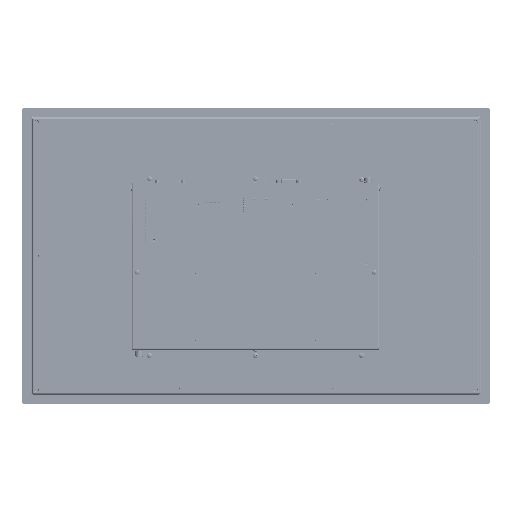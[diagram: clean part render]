
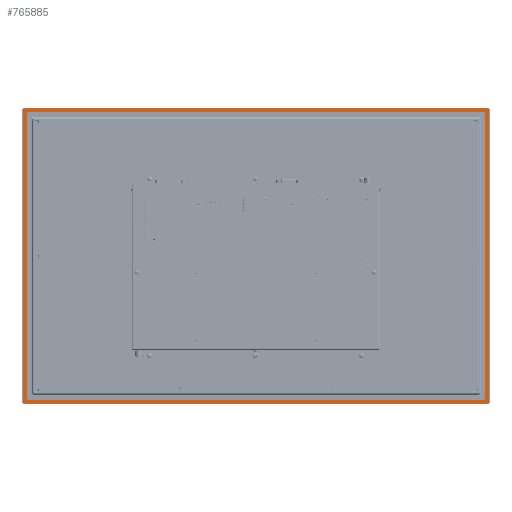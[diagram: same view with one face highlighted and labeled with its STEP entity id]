
A CAD part, front view. The second image highlights one B-rep face of the part: STEP entity #765885.
In plain terms, the highlighted planar face has unit normal (0, -1, 0).
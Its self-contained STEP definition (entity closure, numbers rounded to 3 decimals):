
#7598 = CARTESIAN_POINT ( 'NONE',  ( 282.25, 0.5, 180. ) ) ;
#8622 = CARTESIAN_POINT ( 'NONE',  ( -288.25, 0.5, 184. ) ) ;
#10636 = CARTESIAN_POINT ( 'NONE',  ( 288.25, 0.5, 184. ) ) ;
#11853 = CARTESIAN_POINT ( 'NONE',  ( 286.25, 0.5, -179. ) ) ;
#27759 = CARTESIAN_POINT ( 'NONE',  ( -288.25, 0.5, -177. ) ) ;
#32419 = ORIENTED_EDGE ( 'NONE', *, *, #439738, .F. ) ;
#52632 = CIRCLE ( 'NONE', #387387, 1. ) ;
#54996 = DIRECTION ( 'NONE',  ( 0., 0., -1. ) ) ;
#71326 = FACE_BOUND ( 'NONE', #484573, .T. ) ;
#73908 = VECTOR ( 'NONE', #370084, 1000. ) ;
#76808 = AXIS2_PLACEMENT_3D ( 'NONE', #274010, #711557, #329782 ) ;
#78430 = AXIS2_PLACEMENT_3D ( 'NONE', #334466, #406718, #206369 ) ;
#80109 = EDGE_CURVE ( 'NONE', #336897, #710546, #448814, .T. ) ;
#91743 = CARTESIAN_POINT ( 'NONE',  ( 286.25, 0.5, 186. ) ) ;
#104971 = DIRECTION ( 'NONE',  ( 1., 0., 0. ) ) ;
#109517 = EDGE_CURVE ( 'NONE', #717245, #321237, #810033, .T. ) ;
#111529 = CIRCLE ( 'NONE', #346694, 2. ) ;
#115895 = CARTESIAN_POINT ( 'NONE',  ( -283.25, 0.5, -173. ) ) ;
#116069 = CIRCLE ( 'NONE', #78430, 2. ) ;
#127165 = CARTESIAN_POINT ( 'NONE',  ( -286.25, 0.5, -179. ) ) ;
#133746 = AXIS2_PLACEMENT_3D ( 'NONE', #7598, #707058, #762969 ) ;
#150272 = ORIENTED_EDGE ( 'NONE', *, *, #305863, .F. ) ;
#151353 = FACE_OUTER_BOUND ( 'NONE', #289705, .T. ) ;
#159815 = EDGE_CURVE ( 'NONE', #660892, #651074, #260043, .T. ) ;
#160306 = VERTEX_POINT ( 'NONE', #521821 ) ;
#161054 = ORIENTED_EDGE ( 'NONE', *, *, #109517, .F. ) ;
#164275 = CARTESIAN_POINT ( 'NONE',  ( 286.25, 0.5, 184. ) ) ;
#177852 = DIRECTION ( 'NONE',  ( 0., -1., 0. ) ) ;
#180023 = CARTESIAN_POINT ( 'NONE',  ( 283.25, 0.5, -173. ) ) ;
#188973 = CARTESIAN_POINT ( 'NONE',  ( 282.25, 0.5, 181. ) ) ;
#190048 = ORIENTED_EDGE ( 'NONE', *, *, #247795, .F. ) ;
#196017 = ORIENTED_EDGE ( 'NONE', *, *, #465163, .F. ) ;
#196340 = EDGE_CURVE ( 'NONE', #160306, #336897, #745526, .T. ) ;
#206369 = DIRECTION ( 'NONE',  ( 0., 0., -1. ) ) ;
#210113 = LINE ( 'NONE', #573714, #708938 ) ;
#210344 = VERTEX_POINT ( 'NONE', #294911 ) ;
#223474 = LINE ( 'NONE', #620390, #682362 ) ;
#247795 = EDGE_CURVE ( 'NONE', #258520, #393890, #223474, .T. ) ;
#250261 = EDGE_CURVE ( 'NONE', #710546, #210344, #210113, .T. ) ;
#255465 = CARTESIAN_POINT ( 'NONE',  ( -282.25, 0.5, 180. ) ) ;
#258520 = VERTEX_POINT ( 'NONE', #526451 ) ;
#259659 = CARTESIAN_POINT ( 'NONE',  ( -282.25, 0.5, 181. ) ) ;
#260043 = LINE ( 'NONE', #11853, #818393 ) ;
#272227 = DIRECTION ( 'NONE',  ( 0., 0., -1. ) ) ;
#274010 = CARTESIAN_POINT ( 'NONE',  ( 0., 0.5, 0. ) ) ;
#283624 = ORIENTED_EDGE ( 'NONE', *, *, #820562, .F. ) ;
#289705 = EDGE_LOOP ( 'NONE', ( #614123, #405342, #190048, #628281, #196017, #807431, #654029, #698542 ) ) ;
#294911 = CARTESIAN_POINT ( 'NONE',  ( 283.25, 0.5, 180. ) ) ;
#298534 = EDGE_CURVE ( 'NONE', #717581, #717245, #52632, .T. ) ;
#305863 = EDGE_CURVE ( 'NONE', #321237, #160306, #687007, .T. ) ;
#313002 = DIRECTION ( 'NONE',  ( -1., 0., 0. ) ) ;
#317293 = CARTESIAN_POINT ( 'NONE',  ( 286.25, 0.5, -177. ) ) ;
#318332 = VERTEX_POINT ( 'NONE', #780936 ) ;
#321237 = VERTEX_POINT ( 'NONE', #115895 ) ;
#324396 = CIRCLE ( 'NONE', #651519, 2. ) ;
#329782 = DIRECTION ( 'NONE',  ( -1., 0., 0. ) ) ;
#330421 = DIRECTION ( 'NONE',  ( 0., 0., 1. ) ) ;
#334466 = CARTESIAN_POINT ( 'NONE',  ( -286.25, 0.5, -177. ) ) ;
#336897 = VERTEX_POINT ( 'NONE', #684070 ) ;
#338960 = CARTESIAN_POINT ( 'NONE',  ( -283.25, 0.5, 180. ) ) ;
#346694 = AXIS2_PLACEMENT_3D ( 'NONE', #735475, #663124, #668614 ) ;
#355956 = EDGE_CURVE ( 'NONE', #651074, #729368, #116069, .T. ) ;
#370084 = DIRECTION ( 'NONE',  ( -1., 0., 0. ) ) ;
#379832 = CARTESIAN_POINT ( 'NONE',  ( -282.25, 0.5, -173. ) ) ;
#387387 = AXIS2_PLACEMENT_3D ( 'NONE', #255465, #706731, #330421 ) ;
#390767 = VECTOR ( 'NONE', #272227, 1000. ) ;
#393890 = VERTEX_POINT ( 'NONE', #91743 ) ;
#396569 = PLANE ( 'NONE',  #76808 ) ;
#405342 = ORIENTED_EDGE ( 'NONE', *, *, #508746, .F. ) ;
#406718 = DIRECTION ( 'NONE',  ( 0., 1., 0. ) ) ;
#408929 = VERTEX_POINT ( 'NONE', #8622 ) ;
#409465 = DIRECTION ( 'NONE',  ( 0., 1., 0. ) ) ;
#409692 = CIRCLE ( 'NONE', #574064, 2. ) ;
#414967 = DIRECTION ( 'NONE',  ( 0., 0., 1. ) ) ;
#416463 = AXIS2_PLACEMENT_3D ( 'NONE', #379832, #826022, #313002 ) ;
#428038 = CIRCLE ( 'NONE', #133746, 1. ) ;
#430815 = ORIENTED_EDGE ( 'NONE', *, *, #250261, .F. ) ;
#439738 = EDGE_CURVE ( 'NONE', #210344, #479407, #428038, .T. ) ;
#448814 = CIRCLE ( 'NONE', #490494, 1. ) ;
#459554 = DIRECTION ( 'NONE',  ( 0., 1., 0. ) ) ;
#460131 = ORIENTED_EDGE ( 'NONE', *, *, #80109, .F. ) ;
#465163 = EDGE_CURVE ( 'NONE', #729368, #408929, #802849, .T. ) ;
#479407 = VERTEX_POINT ( 'NONE', #585438 ) ;
#484573 = EDGE_LOOP ( 'NONE', ( #803874, #150272, #161054, #790077, #283624, #32419, #430815, #460131 ) ) ;
#490494 = AXIS2_PLACEMENT_3D ( 'NONE', #754521, #177852, #54996 ) ;
#493736 = CARTESIAN_POINT ( 'NONE',  ( 286.25, 0.5, -179. ) ) ;
#508746 = EDGE_CURVE ( 'NONE', #393890, #318332, #409692, .T. ) ;
#519362 = CARTESIAN_POINT ( 'NONE',  ( -283.25, 0.5, 180. ) ) ;
#521821 = CARTESIAN_POINT ( 'NONE',  ( -282.25, 0.5, -174. ) ) ;
#521832 = DIRECTION ( 'NONE',  ( -1., 0., 0. ) ) ;
#526451 = CARTESIAN_POINT ( 'NONE',  ( -286.25, 0.5, 186. ) ) ;
#562478 = LINE ( 'NONE', #188973, #73908 ) ;
#568199 = EDGE_CURVE ( 'NONE', #730513, #660892, #324396, .T. ) ;
#572168 = LINE ( 'NONE', #10636, #712107 ) ;
#573714 = CARTESIAN_POINT ( 'NONE',  ( 283.25, 0.5, -173. ) ) ;
#574064 = AXIS2_PLACEMENT_3D ( 'NONE', #164275, #409465, #414967 ) ;
#585438 = CARTESIAN_POINT ( 'NONE',  ( 282.25, 0.5, 181. ) ) ;
#594067 = CARTESIAN_POINT ( 'NONE',  ( -282.25, 0.5, -174. ) ) ;
#594177 = CARTESIAN_POINT ( 'NONE',  ( -288.25, 0.5, -177. ) ) ;
#614123 = ORIENTED_EDGE ( 'NONE', *, *, #622946, .F. ) ;
#620390 = CARTESIAN_POINT ( 'NONE',  ( -286.25, 0.5, 186. ) ) ;
#622946 = EDGE_CURVE ( 'NONE', #318332, #730513, #572168, .T. ) ;
#628281 = ORIENTED_EDGE ( 'NONE', *, *, #760600, .F. ) ;
#640506 = DIRECTION ( 'NONE',  ( 0., 0., 1. ) ) ;
#640507 = DIRECTION ( 'NONE',  ( 0., 0., -1. ) ) ;
#651074 = VERTEX_POINT ( 'NONE', #127165 ) ;
#651519 = AXIS2_PLACEMENT_3D ( 'NONE', #317293, #459554, #693587 ) ;
#654029 = ORIENTED_EDGE ( 'NONE', *, *, #159815, .F. ) ;
#660892 = VERTEX_POINT ( 'NONE', #493736 ) ;
#663124 = DIRECTION ( 'NONE',  ( 0., 1., 0. ) ) ;
#668614 = DIRECTION ( 'NONE',  ( -1., 0., 0. ) ) ;
#682362 = VECTOR ( 'NONE', #104971, 1000. ) ;
#684070 = CARTESIAN_POINT ( 'NONE',  ( 282.25, 0.5, -174. ) ) ;
#687007 = CIRCLE ( 'NONE', #416463, 1. ) ;
#692131 = DIRECTION ( 'NONE',  ( 1., 0., 0. ) ) ;
#693587 = DIRECTION ( 'NONE',  ( 1., 0., 0. ) ) ;
#698542 = ORIENTED_EDGE ( 'NONE', *, *, #568199, .F. ) ;
#706731 = DIRECTION ( 'NONE',  ( 0., -1., 0. ) ) ;
#707058 = DIRECTION ( 'NONE',  ( 0., -1., 0. ) ) ;
#708938 = VECTOR ( 'NONE', #640506, 1000. ) ;
#710546 = VERTEX_POINT ( 'NONE', #180023 ) ;
#711557 = DIRECTION ( 'NONE',  ( 0., -1., 0. ) ) ;
#712107 = VECTOR ( 'NONE', #640507, 1000. ) ;
#717245 = VERTEX_POINT ( 'NONE', #519362 ) ;
#717581 = VERTEX_POINT ( 'NONE', #259659 ) ;
#729368 = VERTEX_POINT ( 'NONE', #27759 ) ;
#730513 = VERTEX_POINT ( 'NONE', #775694 ) ;
#735475 = CARTESIAN_POINT ( 'NONE',  ( -286.25, 0.5, 184. ) ) ;
#745526 = LINE ( 'NONE', #594067, #755145 ) ;
#754521 = CARTESIAN_POINT ( 'NONE',  ( 282.25, 0.5, -173. ) ) ;
#755145 = VECTOR ( 'NONE', #692131, 1000. ) ;
#760600 = EDGE_CURVE ( 'NONE', #408929, #258520, #111529, .T. ) ;
#762969 = DIRECTION ( 'NONE',  ( 1., 0., 0. ) ) ;
#765885 = ADVANCED_FACE ( 'NONE', ( #71326, #151353 ), #396569, .T. ) ;
#775694 = CARTESIAN_POINT ( 'NONE',  ( 288.25, 0.5, -177. ) ) ;
#780936 = CARTESIAN_POINT ( 'NONE',  ( 288.25, 0.5, 184. ) ) ;
#790077 = ORIENTED_EDGE ( 'NONE', *, *, #298534, .F. ) ;
#794760 = DIRECTION ( 'NONE',  ( 0., 0., 1. ) ) ;
#802849 = LINE ( 'NONE', #594177, #812506 ) ;
#803874 = ORIENTED_EDGE ( 'NONE', *, *, #196340, .F. ) ;
#807431 = ORIENTED_EDGE ( 'NONE', *, *, #355956, .F. ) ;
#810033 = LINE ( 'NONE', #338960, #390767 ) ;
#812506 = VECTOR ( 'NONE', #794760, 1000. ) ;
#818393 = VECTOR ( 'NONE', #521832, 1000. ) ;
#820562 = EDGE_CURVE ( 'NONE', #479407, #717581, #562478, .T. ) ;
#826022 = DIRECTION ( 'NONE',  ( 0., -1., 0. ) ) ;
